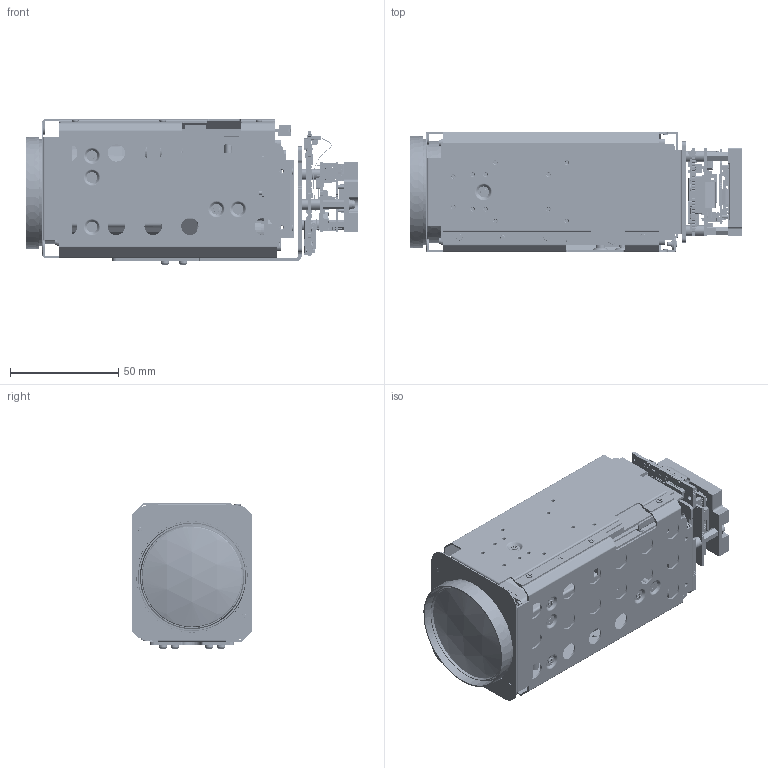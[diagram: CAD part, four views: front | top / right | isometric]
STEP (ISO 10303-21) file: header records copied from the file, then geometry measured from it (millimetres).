
FILE_DESCRIPTION( ( 'Unknown' ), '1' );
FILE_NAME( 'Q:/2003/Product3DCADModels/STEP-test/mm-ap29c01-0145-0101.stp', 'Unknown', ( 'Unknown' ), ( 'Unknown' ), 'PSStep 17.0.49', 'Unknown', ' ' );
FILE_SCHEMA( ( 'AUTOMOTIVE_DESIGN { 1 0 10303 214 1 1 1 1 }' ) );
Length unit declared in the file: millimetre
Products named in the file (735): Lead-6; Open_CASCADE_STEP_translator_6.8_1.2.1; Lead-3; Lead-7; Lead-2; Lead-5; Lead-1; Lead-4; Lead; DEFAULT; DEFAULT-1; DEFAULT-2; FRAME_RUG0010A; Open CASCADE STEP translator 6.8 16.15.1.1.1; Open CASCADE STEP translator 6.8 16.15.1.1.2; Open CASCADE STEP translator 6.8 16.15.1.1.3; Open CASCADE STEP translator 6.8 16.15.1.1.4; Open CASCADE STEP translator 6.8 16.15.1.1.5; Open CASCADE STEP translator 6.8 16.15.1.1.6; Open CASCADE STEP translator 6.8 16.15.1.1.7; Open CASCADE STEP translator 6.8 16.15.1.1.8; Open CASCADE STEP translator 6.8 16.15.1.1.9; Open CASCADE STEP translator 6.8 16.15.1.1.10; Pin_Shape; Open_CASCADE_STEP_translator_6.8_17.4.1; Body; Open_CASCADE_STEP_translator_6.8_17.2.1; 5993357248; body; User_Library-UFBGA-6; BGA_11mil_Ball; UFBGA1.0X1.5mm; 8316624448; Extruded; 149200-1000_SHRINKWRAP_1_ASM; _X2_5B9E4F53_X0_1; _X2_5B9E4F53_X0_2; _X2_5B9E4F53_X0_3; _X2_5B9E4F53_X0_4; _X2_5B9E4F53_X0_5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
Assembly tree (1660 placements, depth 7):
  Assem1
    G-806-048H  x4
    G-875-322T  x3
    flexi-01
    G-106-321A  x3
    heatsink-0389-02
    G-977-016Z  x3
    G-915-068V  x3
    G-080-752R  x3
    bracket-assy
      bracket-0378-02
      G-373-916V  x3
      G-513-075C  x3
    AS-CAM-36LGHD-A
      PCB_SPACER__
      MAIN_PCB_
      SENSOR_SPACER_SHEET
      SHEET__
      35X_IPT_ASM
        149200-1000_SHRINKWRAP_1_ASM
          _X2_5B9E4F53_X0_1
          _X2_5B9E4F53_X0_2
          _X2_5B9E4F53_X0_3
          _X2_5B9E4F53_X0_4
          _X2_5B9E4F53_X0_5
          _X2_5B9E4F53_X0_6
          _X2_5B9E4F53_X0_7-12324
          _X2_5B9E4F53_X0_7-12325
          _X2_5B9E4F53_X0_8
          _X2_5B9E4F53_X0_9
          _X2_5B9E4F53_X0_10
          _X2_5B9E4F53_X0_11
          _X2_5B9E4F53_X0_12
          _X2_5B9E4F53_X0_13
          _X2_5B9E4F53_X0_14
          _X2_5B9E4F53_X0_15
          _X2_5B9E4F53_X0_16
          _X2_5B9E4F53_X0_17
          _X2_5B9E4F53_X0_18
          _X2_5B9E4F53_X0_19
          _X2_5B9E4F53_X0_20
          _X2_5B9E4F53_X0_21
          _X2_5B9E4F53_X0_22
          _X2_5B9E4F53_X0_23
          _X2_5B9E4F53_X0_24
          _X2_5B9E4F53_X0_25
          _X2_5B9E4F53_X0_26
          _X2_5B9E4F53_X0_27
          _X2_5B9E4F53_X0_28
          1592M1-1012
          149200-1000_SHRINKWRAP_1_ASM
      SENSOR_PCB_ASSY__ASM
        PRT0003_
        CMOS_IMX264_265_392LQJ-C
      CHASSIS_ASM
        323037090_CHASSIS_TOP
        TS_LH_M2X4_TYPE2  x6
        MS_LH_M2X3  x3
        MS_LH_M2X4  x6
        323037095_CHASSIS_BOTTOM
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Bounding box: 153.55 x 55.6 x 67.14 mm (x, y, z)
Volume: 121121 mm3; surface area: 214258.6 mm2
Topology: 1259 solids, 1260 shells, 22928 faces, 58516 edges, 38269 vertices
Faces by surface type: plane 18096, cylinder 3509, revolution 382, torus 298, bspline 205, sphere 181, extrusion 160, cone 97
Full cylindrical faces by diameter (mm): 0.041 x1, 0.1 x184, 0.14 x1, 0.15 x1, 0.2 x2, 0.25 x1, 0.4 x2, 0.5 x1, 0.519 x1, 0.7 x8, 0.8 x8, 0.9 x8, 1 x1, 1.051 x2, 1.09 x1, 1.1 x2, 1.12 x2, 1.2 x19, 1.3 x2, 1.349 x4, 1.35 x20, 1.4 x2, 1.499 x2, 1.5 x3, 1.567 x3, 1.599 x14, 1.6 x35, 1.699 x10, 1.7 x13, 1.789 x4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
Entity records: 528447 total; most frequent: CARTESIAN_POINT 97285, ORIENTED_EDGE 64293, DIRECTION 62676, EDGE_CURVE 32147, VECTOR 24019, LINE 23859, VERTEX_POINT 21497, AXIS2_PLACEMENT_3D 19202
